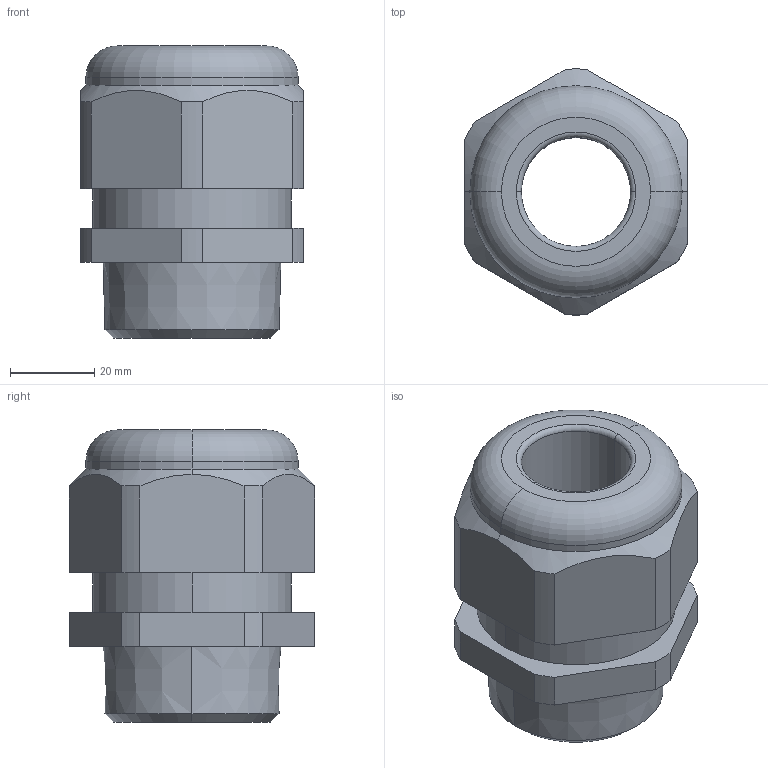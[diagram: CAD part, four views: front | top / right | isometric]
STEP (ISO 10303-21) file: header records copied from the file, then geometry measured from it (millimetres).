
FILE_DESCRIPTION (( 'STEP AP203' ), '1' );
FILE_NAME ('50.114 PA-R.STEP', '2006-11-09T12:06:21', ( ' ' ), ( '' ), 'SwSTEP 2.0', 'SolidWorks 2005278', '' );
FILE_SCHEMA (( 'CONFIG_CONTROL_DESIGN' ));
Length unit declared in the file: millimetre
Products named in the file (1): 50.114 PA-R
Bounding box: 53 x 58.48 x 69.5 mm (x, y, z)
Volume: 99336.4 mm3; surface area: 20770.2 mm2
Topology: 1 solids, 1 shells, 84 faces, 218 edges, 142 vertices
Faces by surface type: plane 54, cylinder 18, cone 6, torus 6
Entity records: 2721 total; most frequent: CARTESIAN_POINT 545, ORIENTED_EDGE 436, DIRECTION 434, EDGE_CURVE 218, VECTOR 156, LINE 156, VERTEX_POINT 142, AXIS2_PLACEMENT_3D 139
